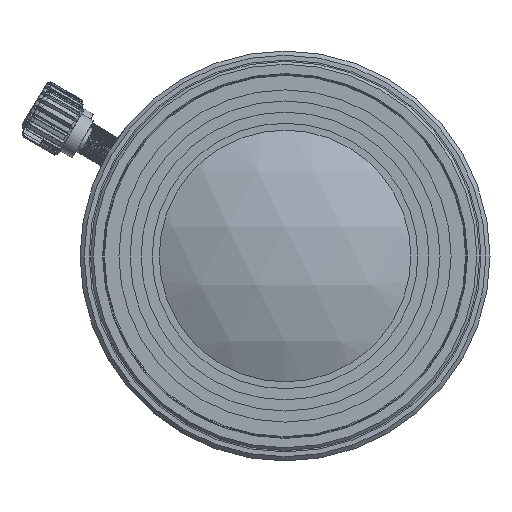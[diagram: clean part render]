
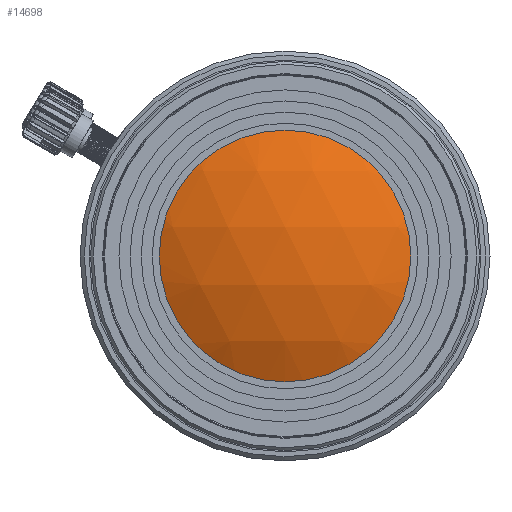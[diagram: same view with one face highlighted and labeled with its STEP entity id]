
A CAD part, left-side view. The second image highlights one B-rep face of the part: STEP entity #14698.
In plain terms, the highlighted spherical face has radius 21.55 mm.
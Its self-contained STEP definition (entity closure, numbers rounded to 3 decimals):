
#130=SPHERICAL_SURFACE('',#16081,21.55);
#1541=FACE_OUTER_BOUND('',#2481,.T.);
#2481=EDGE_LOOP('',(#12907));
#3433=CIRCLE('',#16082,10.);
#6353=VERTEX_POINT('',#72887);
#8539=EDGE_CURVE('',#6353,#6353,#3433,.T.);
#12907=ORIENTED_EDGE('',*,*,#8539,.T.);
#14698=ADVANCED_FACE('',(#1541),#130,.T.);
#16081=AXIS2_PLACEMENT_3D('',#72886,#19178,#19179);
#16082=AXIS2_PLACEMENT_3D('',#72888,#19180,#19181);
#19178=DIRECTION('center_axis',(0.,0.,1.));
#19179=DIRECTION('ref_axis',(-1.,0.,0.));
#19180=DIRECTION('center_axis',(-1.,0.,0.));
#19181=DIRECTION('ref_axis',(0.,0.,-1.));
#72886=CARTESIAN_POINT('Origin',(-8.477,0.,0.));
#72887=CARTESIAN_POINT('',(-27.566,-10.,0.));
#72888=CARTESIAN_POINT('Origin',(-27.566,0.,0.));
